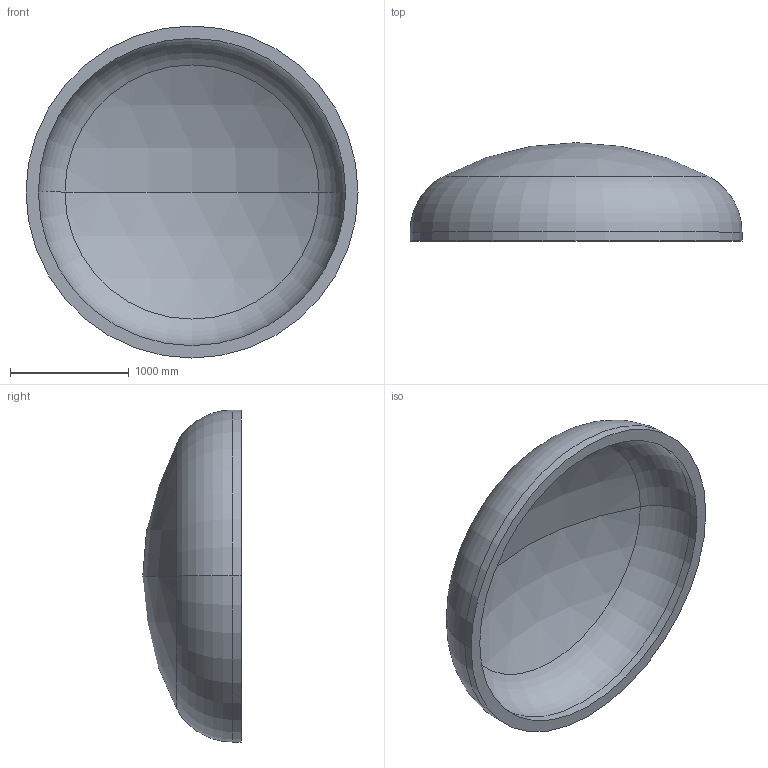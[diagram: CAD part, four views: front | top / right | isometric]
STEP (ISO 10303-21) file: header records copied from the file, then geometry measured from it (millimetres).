
FILE_DESCRIPTION (( 'STEP AP203' ), '1' );
FILE_NAME ('DIN 28013 Korbbogenform_-_Boden DIN 28013 - 2800 x 75 - I - s=104.step', '2016-07-01T17:19:05', ( '' ), ( '' ), 'SwSTEP 2.0', 'SolidWorks 2013', '' );
FILE_SCHEMA (( 'CONFIG_CONTROL_DESIGN' ));
Length unit declared in the file: millimetre
Products named in the file (1): DIN 28013 Korbbogenform_-_Boden DIN 28013 - 2800 x 75 - I - s=104
Bounding box: 2800 x 829.62 x 2800 mm (x, y, z)
Volume: 910739252.7 mm3; surface area: 18417716.1 mm2
Topology: 1 solids, 1 shells, 13 faces, 24 edges, 14 vertices
Faces by surface type: torus 4, cylinder 4, sphere 4, plane 1
Entity records: 407 total; most frequent: DIRECTION 72, CARTESIAN_POINT 52, ORIENTED_EDGE 48, AXIS2_PLACEMENT_3D 34, EDGE_CURVE 24, CIRCLE 20, EDGE_LOOP 14, VERTEX_POINT 14
